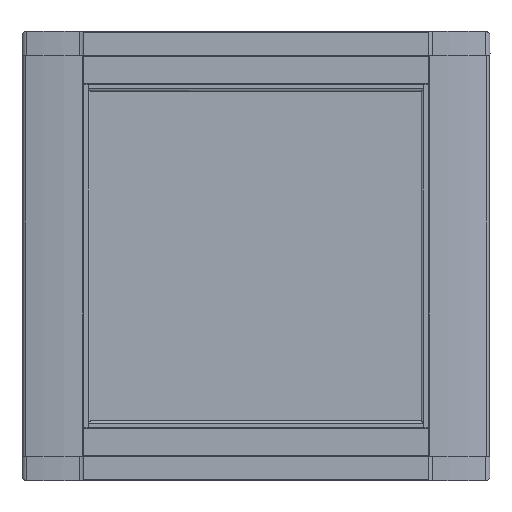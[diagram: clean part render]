
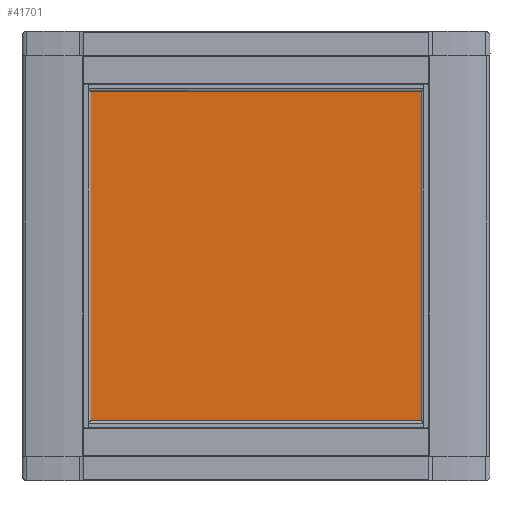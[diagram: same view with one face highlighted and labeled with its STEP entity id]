
A CAD part, top view. The second image highlights one B-rep face of the part: STEP entity #41701.
In plain terms, the highlighted planar face has unit normal (0, 0, 1).
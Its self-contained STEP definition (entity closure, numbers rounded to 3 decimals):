
#4472 = EDGE_CURVE ( 'NONE', #46188, #20017, #29378, .T. ) ;
#4773 = DIRECTION ( 'NONE',  ( 0., 0., 1. ) ) ;
#6149 = CARTESIAN_POINT ( 'NONE',  ( -157., -187., 170.9 ) ) ;
#7022 = CARTESIAN_POINT ( 'NONE',  ( -157., -30., 170.9 ) ) ;
#9064 = CARTESIAN_POINT ( 'NONE',  ( 157., -344., 170.9 ) ) ;
#9737 = AXIS2_PLACEMENT_3D ( 'NONE', #27566, #4773, #31367 ) ;
#9781 = CARTESIAN_POINT ( 'NONE',  ( -157., -344., 170.9 ) ) ;
#9969 = EDGE_LOOP ( 'NONE', ( #22576, #10954, #29291, #12538 ) ) ;
#10954 = ORIENTED_EDGE ( 'NONE', *, *, #4472, .T. ) ;
#12538 = ORIENTED_EDGE ( 'NONE', *, *, #14220, .T. ) ;
#12865 = VERTEX_POINT ( 'NONE', #9781 ) ;
#14220 = EDGE_CURVE ( 'NONE', #12865, #32519, #28807, .T. ) ;
#14994 = FACE_OUTER_BOUND ( 'NONE', #9969, .T. ) ;
#15178 = DIRECTION ( 'NONE',  ( 1., 0., 0. ) ) ;
#17545 = LINE ( 'NONE', #6149, #26496 ) ;
#18681 = VECTOR ( 'NONE', #15178, 1000. ) ;
#19745 = CARTESIAN_POINT ( 'NONE',  ( 157., -30., 170.9 ) ) ;
#20017 = VERTEX_POINT ( 'NONE', #7022 ) ;
#22576 = ORIENTED_EDGE ( 'NONE', *, *, #30685, .T. ) ;
#25920 = CARTESIAN_POINT ( 'NONE',  ( 0., -30., 170.9 ) ) ;
#26496 = VECTOR ( 'NONE', #32721, 1000. ) ;
#27566 = CARTESIAN_POINT ( 'NONE',  ( 0., -187., 170.9 ) ) ;
#28807 = LINE ( 'NONE', #37883, #18681 ) ;
#29291 = ORIENTED_EDGE ( 'NONE', *, *, #37330, .T. ) ;
#29378 = LINE ( 'NONE', #25920, #48220 ) ;
#29716 = DIRECTION ( 'NONE',  ( -1., 0., 0. ) ) ;
#30685 = EDGE_CURVE ( 'NONE', #32519, #46188, #36817, .T. ) ;
#31367 = DIRECTION ( 'NONE',  ( 0., -1., 0. ) ) ;
#32519 = VERTEX_POINT ( 'NONE', #9064 ) ;
#32721 = DIRECTION ( 'NONE',  ( 0., -1., 0. ) ) ;
#35670 = VECTOR ( 'NONE', #47895, 1000. ) ;
#36817 = LINE ( 'NONE', #40307, #35670 ) ;
#37330 = EDGE_CURVE ( 'NONE', #20017, #12865, #17545, .T. ) ;
#37883 = CARTESIAN_POINT ( 'NONE',  ( 0., -344., 170.9 ) ) ;
#37900 = PLANE ( 'NONE',  #9737 ) ;
#40307 = CARTESIAN_POINT ( 'NONE',  ( 157., -187., 170.9 ) ) ;
#41701 = ADVANCED_FACE ( 'NONE', ( #14994 ), #37900, .T. ) ;
#46188 = VERTEX_POINT ( 'NONE', #19745 ) ;
#47895 = DIRECTION ( 'NONE',  ( 0., 1., 0. ) ) ;
#48220 = VECTOR ( 'NONE', #29716, 1000. ) ;
